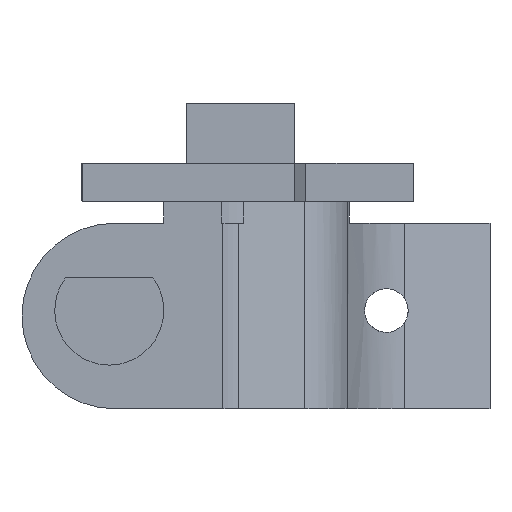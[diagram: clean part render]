
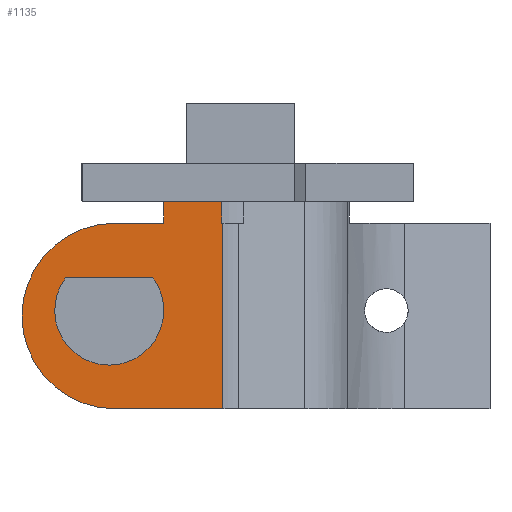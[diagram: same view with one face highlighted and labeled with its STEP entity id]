
A CAD part, front view. The second image highlights one B-rep face of the part: STEP entity #1135.
In plain terms, the highlighted planar face has unit normal (0, -1, 0).
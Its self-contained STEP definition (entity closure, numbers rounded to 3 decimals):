
#1088 = ORIENTED_EDGE ( 'NONE', *, *, #1139, .T. ) ;
#1096 = ORIENTED_EDGE ( 'NONE', *, *, #1101, .T. ) ;
#1098 = ORIENTED_EDGE ( 'NONE', *, *, #1163, .F. ) ;
#1099 = EDGE_CURVE ( 'NONE', #1113, #1159, #2363, .T. ) ;
#1101 = EDGE_CURVE ( 'NONE', #1115, #1159, #2367, .T. ) ;
#1111 = VERTEX_POINT ( 'NONE', #2360 ) ;
#1112 = VERTEX_POINT ( 'NONE', #2396 ) ;
#1113 = VERTEX_POINT ( 'NONE', #2409 ) ;
#1115 = VERTEX_POINT ( 'NONE', #2400 ) ;
#1116 = ORIENTED_EDGE ( 'NONE', *, *, #1156, .T. ) ;
#1126 = EDGE_LOOP ( 'NONE', ( #1096, #1131, #1143, #1157, #1169, #1116, #1088, #1133 ) ) ;
#1131 = ORIENTED_EDGE ( 'NONE', *, *, #1099, .F. ) ;
#1133 = ORIENTED_EDGE ( 'NONE', *, *, #1167, .F. ) ;
#1135 = ADVANCED_FACE ( 'NONE', ( #2415, #2441 ), #2426, .T. ) ;
#1138 = VERTEX_POINT ( 'NONE', #2470 ) ;
#1139 = EDGE_CURVE ( 'NONE', #1142, #1168, #2466, .T. ) ;
#1140 = VERTEX_POINT ( 'NONE', #2416 ) ;
#1142 = VERTEX_POINT ( 'NONE', #2459 ) ;
#1143 = ORIENTED_EDGE ( 'NONE', *, *, #1160, .T. ) ;
#1151 = EDGE_CURVE ( 'NONE', #1111, #1112, #2132, .T. ) ;
#1152 = EDGE_CURVE ( 'NONE', #1138, #1140, #3462, .T. ) ;
#1153 = EDGE_LOOP ( 'NONE', ( #1162, #1098 ) ) ;
#1154 = EDGE_CURVE ( 'NONE', #1155, #1111, #3819, .T. ) ;
#1155 = VERTEX_POINT ( 'NONE', #3821 ) ;
#1156 = EDGE_CURVE ( 'NONE', #1112, #1142, #3815, .T. ) ;
#1157 = ORIENTED_EDGE ( 'NONE', *, *, #1154, .T. ) ;
#1159 = VERTEX_POINT ( 'NONE', #3814 ) ;
#1160 = EDGE_CURVE ( 'NONE', #1113, #1155, #3705, .T. ) ;
#1162 = ORIENTED_EDGE ( 'NONE', *, *, #1152, .F. ) ;
#1163 = EDGE_CURVE ( 'NONE', #1140, #1138, #3469, .T. ) ;
#1167 = EDGE_CURVE ( 'NONE', #1115, #1168, #2204, .T. ) ;
#1168 = VERTEX_POINT ( 'NONE', #2498 ) ;
#1169 = ORIENTED_EDGE ( 'NONE', *, *, #1151, .T. ) ;
#1809 = DIRECTION ( 'NONE',  ( 0., 0., 1. ) ) ;
#1810 = DIRECTION ( 'NONE',  ( 0., -1., 0. ) ) ;
#2126 = CARTESIAN_POINT ( 'NONE',  ( -12.709, -10.431, 22.6 ) ) ;
#2131 = AXIS2_PLACEMENT_3D ( 'NONE', #2126, #1810, #1809 ) ;
#2132 = CIRCLE ( 'NONE', #2131, 8.5 ) ;
#2195 = VECTOR ( 'NONE', #2196, 1000. ) ;
#2196 = DIRECTION ( 'NONE',  ( 1., 0., 0. ) ) ;
#2204 = LINE ( 'NONE', #2205, #2195 ) ;
#2205 = CARTESIAN_POINT ( 'NONE',  ( -2.894, -10.431, 31.1 ) ) ;
#2355 = VECTOR ( 'NONE', #2356, 1000. ) ;
#2356 = DIRECTION ( 'NONE',  ( 0., 0., 1. ) ) ;
#2357 = CARTESIAN_POINT ( 'NONE',  ( -2.894, -10.431, 31.1 ) ) ;
#2358 = DIRECTION ( 'NONE',  ( 1., 0., 0. ) ) ;
#2359 = VECTOR ( 'NONE', #2358, 1000. ) ;
#2360 = CARTESIAN_POINT ( 'NONE',  ( -12.709, -10.431, 31.1 ) ) ;
#2362 = CARTESIAN_POINT ( 'NONE',  ( -2.793, -10.431, 33.1 ) ) ;
#2363 = LINE ( 'NONE', #2362, #2359 ) ;
#2367 = LINE ( 'NONE', #2357, #2355 ) ;
#2385 = DIRECTION ( 'NONE',  ( 0., -1., 0. ) ) ;
#2396 = CARTESIAN_POINT ( 'NONE',  ( -12.709, -10.431, 14.1 ) ) ;
#2400 = CARTESIAN_POINT ( 'NONE',  ( -2.894, -10.431, 31.1 ) ) ;
#2409 = CARTESIAN_POINT ( 'NONE',  ( -8.209, -10.431, 33.1 ) ) ;
#2413 = CARTESIAN_POINT ( 'NONE',  ( -21.209, -10.431, 31.1 ) ) ;
#2415 = FACE_OUTER_BOUND ( 'NONE', #1126, .T. ) ;
#2416 = CARTESIAN_POINT ( 'NONE',  ( -17.209, -10.431, 26.1 ) ) ;
#2420 = DIRECTION ( 'NONE',  ( 0., 0., -1. ) ) ;
#2426 = PLANE ( 'NONE',  #2437 ) ;
#2437 = AXIS2_PLACEMENT_3D ( 'NONE', #2413, #2385, #2420 ) ;
#2441 = FACE_BOUND ( 'NONE', #1153, .T. ) ;
#2459 = CARTESIAN_POINT ( 'NONE',  ( -2.793, -10.431, 14.1 ) ) ;
#2461 = DIRECTION ( 'NONE',  ( 0., 0., 1. ) ) ;
#2462 = VECTOR ( 'NONE', #2461, 1000. ) ;
#2465 = CARTESIAN_POINT ( 'NONE',  ( -2.793, -10.431, 31.1 ) ) ;
#2466 = LINE ( 'NONE', #2465, #2462 ) ;
#2470 = CARTESIAN_POINT ( 'NONE',  ( -9.209, -10.431, 26.1 ) ) ;
#2498 = CARTESIAN_POINT ( 'NONE',  ( -2.793, -10.431, 31.1 ) ) ;
#3446 = CARTESIAN_POINT ( 'NONE',  ( -21.209, -10.431, 14.1 ) ) ;
#3455 = CARTESIAN_POINT ( 'NONE',  ( -17.209, -10.431, 26.1 ) ) ;
#3462 = LINE ( 'NONE', #3455, #3479 ) ;
#3463 = VECTOR ( 'NONE', #3476, 1000. ) ;
#3469 = CIRCLE ( 'NONE', #3497, 5. ) ;
#3471 = DIRECTION ( 'NONE',  ( -1., 0., 0. ) ) ;
#3472 = VECTOR ( 'NONE', #3474, 1000. ) ;
#3473 = CARTESIAN_POINT ( 'NONE',  ( -13.209, -10.431, 23.1 ) ) ;
#3474 = DIRECTION ( 'NONE',  ( 0., 0., -1. ) ) ;
#3475 = CARTESIAN_POINT ( 'NONE',  ( -8.209, -10.431, 33.1 ) ) ;
#3476 = DIRECTION ( 'NONE',  ( 1., 0., 0. ) ) ;
#3479 = VECTOR ( 'NONE', #3471, 1000. ) ;
#3488 = DIRECTION ( 'NONE',  ( 0., -1., 0. ) ) ;
#3497 = AXIS2_PLACEMENT_3D ( 'NONE', #3473, #3488, #3517 ) ;
#3517 = DIRECTION ( 'NONE',  ( 0., 0., 1. ) ) ;
#3705 = LINE ( 'NONE', #3475, #3472 ) ;
#3814 = CARTESIAN_POINT ( 'NONE',  ( -2.894, -10.431, 33.1 ) ) ;
#3815 = LINE ( 'NONE', #3446, #3463 ) ;
#3816 = DIRECTION ( 'NONE',  ( -1., 0., 0. ) ) ;
#3817 = VECTOR ( 'NONE', #3816, 1000. ) ;
#3818 = CARTESIAN_POINT ( 'NONE',  ( -21.209, -10.431, 31.1 ) ) ;
#3819 = LINE ( 'NONE', #3818, #3817 ) ;
#3821 = CARTESIAN_POINT ( 'NONE',  ( -8.209, -10.431, 31.1 ) ) ;
